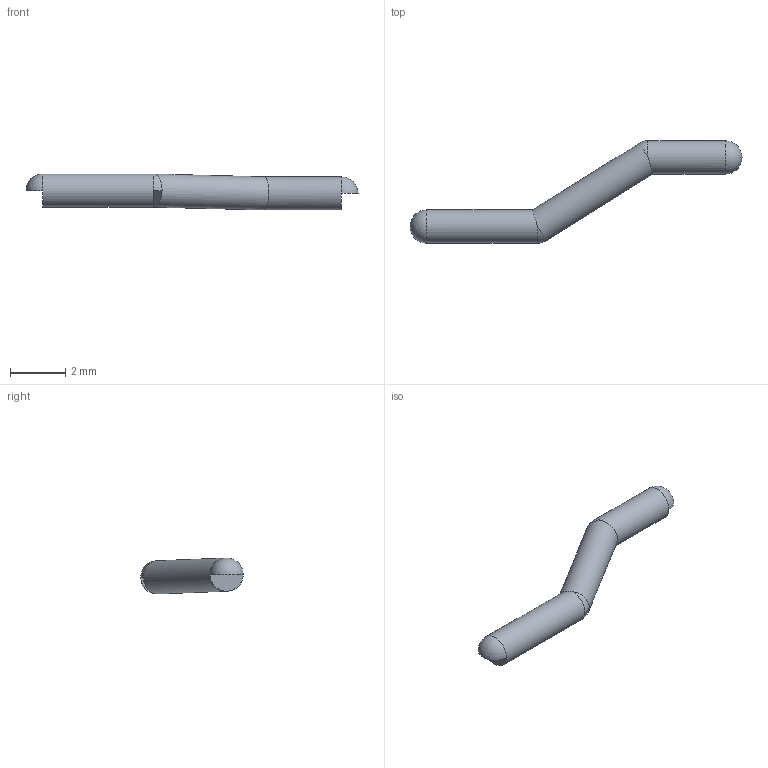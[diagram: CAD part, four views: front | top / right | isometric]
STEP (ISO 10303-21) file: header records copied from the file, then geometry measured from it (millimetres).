
FILE_DESCRIPTION(('Open CASCADE Model'),'2;1');
FILE_NAME('Open CASCADE Shape Model','2026-10-17T17:22:14',('Author'),( 'Open CASCADE'),'Open CASCADE STEP processor 7.9','Open CASCADE 7.9' ,'Unknown');
FILE_SCHEMA(('AUTOMOTIVE_DESIGN { 1 0 10303 214 1 1 1 1 }'));
Length unit declared in the file: millimetre
Products named in the file (1): Open CASCADE STEP translator 7.9 27
Bounding box: 12 x 3.7 x 1.3 mm (x, y, z)
Volume: 13.4 mm3; surface area: 48.9 mm2
Topology: 1 solids, 1 shells, 17 faces, 37 edges, 19 vertices
Faces by surface type: plane 10, sphere 4, cylinder 3
Full cylindrical faces by diameter (mm): 1.2 x3
Entity records: 1074 total; most frequent: CARTESIAN_POINT 374, DIRECTION 133, ORIENTED_EDGE 68, PCURVE 68, DEFINITIONAL_REPRESENTATION 68, AXIS2_PLACEMENT_3D 41, LINE 41, VECTOR 41
